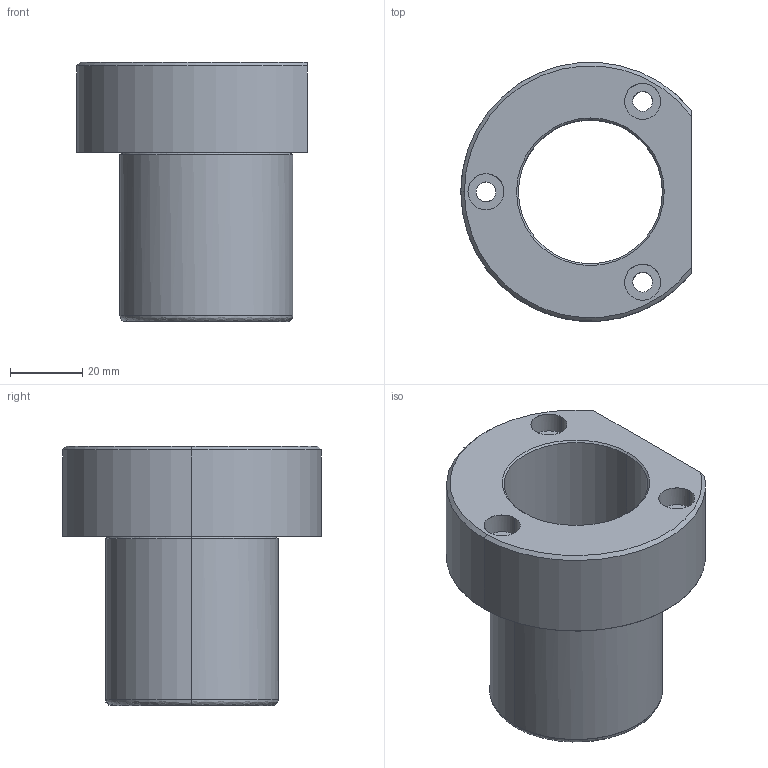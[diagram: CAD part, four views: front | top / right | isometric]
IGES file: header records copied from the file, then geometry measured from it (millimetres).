
Start section: START RECORD GO HERE.
Global section: file name: 737-32.igs; native system: DASSAULT SYSTEMES CATIA V5 R20 - www.3ds.com; preprocessor: CATIA Version 5 Release 20 ; author: Utente; organization: NB04-ASUS; date: 20210117.180315; units: millimetre
Bounding box: 64 x 71.9 x 72 mm (x, y, z)
Surface area: 28186.7 mm2 (no closed solid volume)
Topology: 0 solids, 0 shells, 37 faces, 164 edges, 164 vertices
Faces by surface type: revolution 30, plane 7
